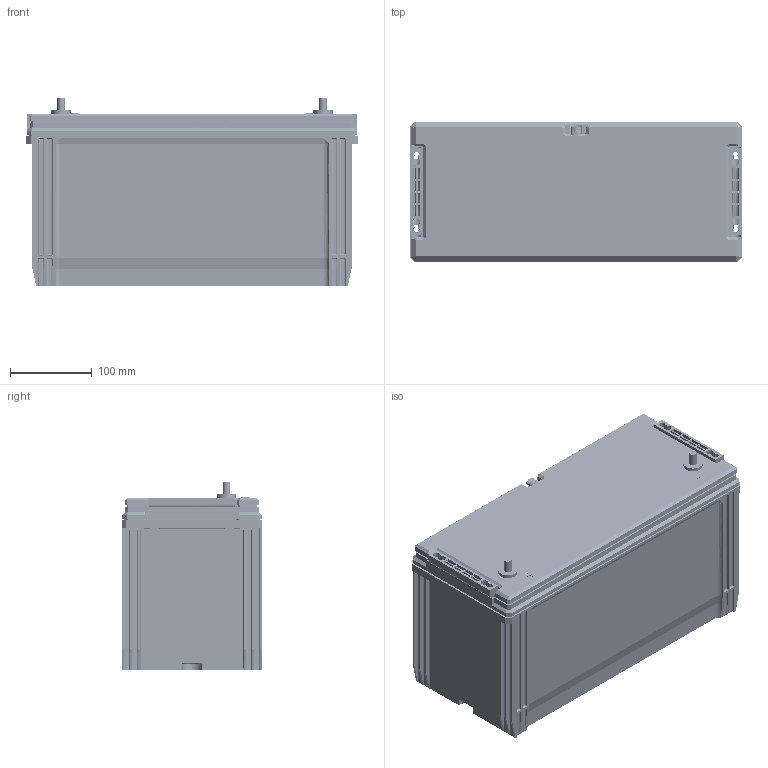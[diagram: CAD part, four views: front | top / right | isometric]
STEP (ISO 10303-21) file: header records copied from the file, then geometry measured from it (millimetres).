
FILE_DESCRIPTION(/* description */ (''),/* implementation_level */ '2;1');
FILE_NAME(/* name */ 'N100 D STUD',/* time_stamp */ '2024-07-23T11:57:19+08:00',/* author */ (''),/* organization */ (''),/* preprocessor_version */ 'ST-DEVELOPER v9',/* originating_system */ 'EDS PLM SOLUTIONS - UNIGRAPHICS NX 2.0',/* authorisation */ '');
FILE_SCHEMA (('AUTOMOTIVE_DESIGN { 1 0 10303 214 0 1 1 1 }'));
Products named in the file (1): bxus56F425j6
Bounding box: 406 x 172 x 230.8 mm (x, y, z)
Volume: 1746629.4 mm3; surface area: 1457200.5 mm2
Topology: 4 solids, 5 shells, 7171 faces, 19046 edges, 11697 vertices
Faces by surface type: plane 3078, cylinder 2357, bspline 609, cone 552, sphere 428, torus 79, extrusion 63, revolution 5
Full cylindrical faces by diameter (mm): 9 x6, 9.525 x2, 12 x6, 12.553 x6, 15 x2, 19.3 x1, 23.43 x2, 29.7 x1
Entity records: 278940 total; most frequent: CARTESIAN_POINT 55984, ORIENTED_EDGE 36824, DIRECTION 35495, EDGE_CURVE 18412, AXIS2_PLACEMENT_3D 12502, VERTEX_POINT 11608, VECTOR 10486, LINE 10423
